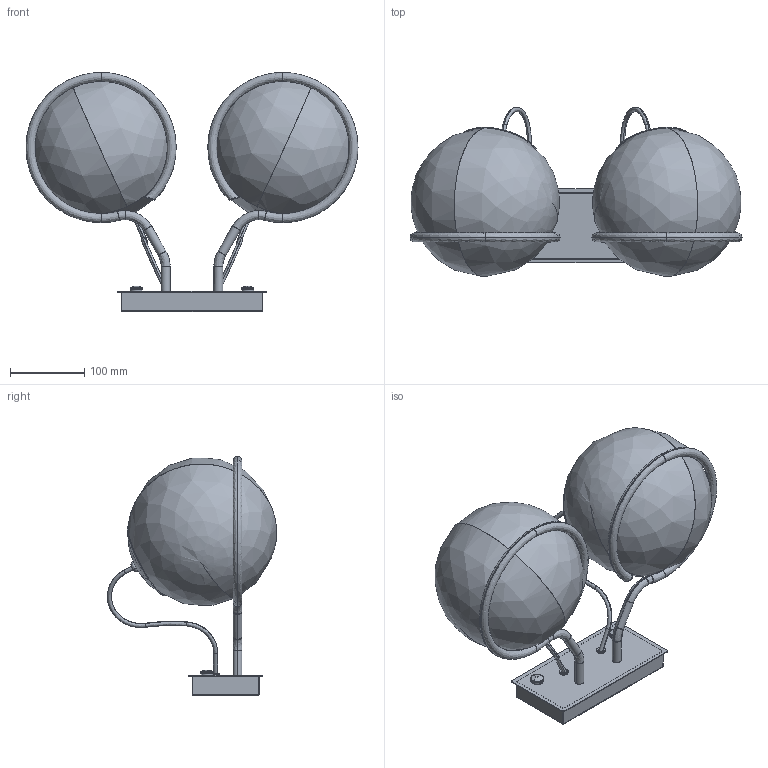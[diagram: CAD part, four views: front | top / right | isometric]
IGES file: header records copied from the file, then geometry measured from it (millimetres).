
Global section: file name: /Users/nicholas/Desktop/Architects/Model 238:2 3D/Model 238:2.igs; preprocessor: Trout Lake IGES 012 Jul 15 2015; date: 180809.122850; units: millimetre
Bounding box: 446.63 x 227.84 x 321.57 mm (x, y, z)
Surface area: 710341.4 mm2 (no closed solid volume)
Topology: 0 solids, 0 shells, 731 faces, 4240 edges, 4222 vertices
Faces by surface type: bspline 731
